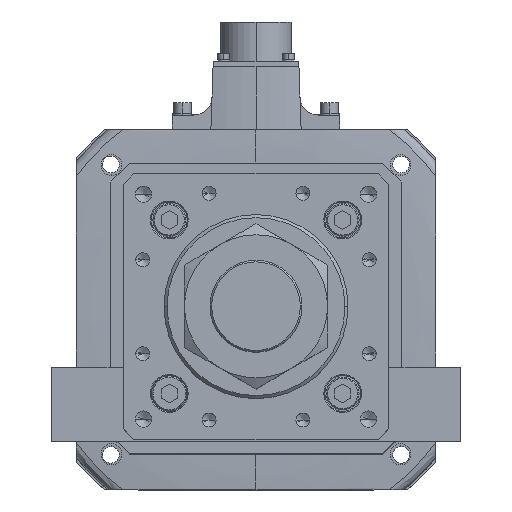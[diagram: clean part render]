
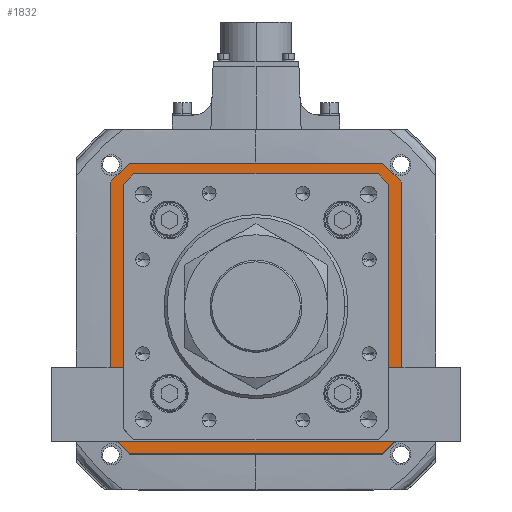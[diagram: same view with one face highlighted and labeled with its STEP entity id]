
A CAD part, top view. The second image highlights one B-rep face of the part: STEP entity #1832.
In plain terms, the highlighted planar face has unit normal (0, 0, 1).
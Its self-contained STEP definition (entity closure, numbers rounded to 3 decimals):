
#1428 = VECTOR ( 'NONE', #52994, 1000. ) ;
#1547 = ORIENTED_EDGE ( 'NONE', *, *, #45458, .T. ) ;
#1567 = CARTESIAN_POINT ( 'NONE',  ( 60.896, 60.896, -142. ) ) ;
#1832 = ADVANCED_FACE ( 'NONE', ( #26277, #37736 ), #39094, .T. ) ;
#2486 = CARTESIAN_POINT ( 'NONE',  ( 63., 58.793, -142. ) ) ;
#2830 = EDGE_CURVE ( 'NONE', #27604, #24506, #36284, .T. ) ;
#3192 = ORIENTED_EDGE ( 'NONE', *, *, #35800, .T. ) ;
#3304 = CARTESIAN_POINT ( 'NONE',  ( -63., -58.793, -142. ) ) ;
#3408 = LINE ( 'NONE', #49368, #26883 ) ;
#3456 = LINE ( 'NONE', #26130, #47890 ) ;
#3642 = EDGE_CURVE ( 'NONE', #44051, #52365, #13388, .T. ) ;
#4470 = VERTEX_POINT ( 'NONE', #27930 ) ;
#4930 = CARTESIAN_POINT ( 'NONE',  ( 62., -71., -142. ) ) ;
#5346 = DIRECTION ( 'NONE',  ( -0.707, 0.707, 0. ) ) ;
#7992 = DIRECTION ( 'NONE',  ( -0.707, -0.707, 0. ) ) ;
#9673 = LINE ( 'NONE', #39919, #11674 ) ;
#10715 = DIRECTION ( 'NONE',  ( 0.707, 0.707, 0. ) ) ;
#11674 = VECTOR ( 'NONE', #5346, 1000. ) ;
#11905 = CARTESIAN_POINT ( 'NONE',  ( 63., -58.793, -142. ) ) ;
#11924 = EDGE_LOOP ( 'NONE', ( #46653, #27218, #46488, #17710, #25760, #25331, #55616, #37233 ) ) ;
#13077 = DIRECTION ( 'NONE',  ( -1., 0., 0. ) ) ;
#13388 = LINE ( 'NONE', #32476, #43012 ) ;
#13464 = DIRECTION ( 'NONE',  ( 0., 1., 0. ) ) ;
#13615 = ORIENTED_EDGE ( 'NONE', *, *, #23549, .T. ) ;
#14623 = CARTESIAN_POINT ( 'NONE',  ( 71., 62., -142. ) ) ;
#15010 = ORIENTED_EDGE ( 'NONE', *, *, #53263, .T. ) ;
#15631 = DIRECTION ( 'NONE',  ( 0., 1., 0. ) ) ;
#15773 = VERTEX_POINT ( 'NONE', #46161 ) ;
#15973 = VERTEX_POINT ( 'NONE', #26505 ) ;
#16837 = VECTOR ( 'NONE', #21428, 1000. ) ;
#16901 = LINE ( 'NONE', #20739, #47853 ) ;
#17214 = VERTEX_POINT ( 'NONE', #21645 ) ;
#17633 = CARTESIAN_POINT ( 'NONE',  ( 71., 62., -142. ) ) ;
#17710 = ORIENTED_EDGE ( 'NONE', *, *, #34416, .F. ) ;
#18928 = DIRECTION ( 'NONE',  ( 0., -1., 0. ) ) ;
#19586 = LINE ( 'NONE', #1567, #1428 ) ;
#20739 = CARTESIAN_POINT ( 'NONE',  ( 60.896, -60.896, -142. ) ) ;
#21428 = DIRECTION ( 'NONE',  ( 0.707, 0.707, 0. ) ) ;
#21632 = DIRECTION ( 'NONE',  ( 0., 0., 1. ) ) ;
#21645 = CARTESIAN_POINT ( 'NONE',  ( -58.793, -63., -142. ) ) ;
#21998 = CARTESIAN_POINT ( 'NONE',  ( 0., 0., -142. ) ) ;
#22143 = CARTESIAN_POINT ( 'NONE',  ( 58.793, 63., -142. ) ) ;
#22662 = EDGE_CURVE ( 'NONE', #15773, #36545, #41253, .T. ) ;
#23064 = ORIENTED_EDGE ( 'NONE', *, *, #55107, .T. ) ;
#23299 = DIRECTION ( 'NONE',  ( -0.707, 0.707, 0. ) ) ;
#23343 = CARTESIAN_POINT ( 'NONE',  ( -71., -62., -142. ) ) ;
#23549 = EDGE_CURVE ( 'NONE', #55043, #34786, #36430, .T. ) ;
#23625 = LINE ( 'NONE', #30001, #41822 ) ;
#24168 = VECTOR ( 'NONE', #13464, 1000. ) ;
#24173 = VECTOR ( 'NONE', #13077, 1000. ) ;
#24506 = VERTEX_POINT ( 'NONE', #43933 ) ;
#25331 = ORIENTED_EDGE ( 'NONE', *, *, #45821, .F. ) ;
#25549 = CARTESIAN_POINT ( 'NONE',  ( -62., 71., -142. ) ) ;
#25760 = ORIENTED_EDGE ( 'NONE', *, *, #2830, .F. ) ;
#26130 = CARTESIAN_POINT ( 'NONE',  ( -60.896, -60.896, -142. ) ) ;
#26277 = FACE_BOUND ( 'NONE', #46817, .T. ) ;
#26505 = CARTESIAN_POINT ( 'NONE',  ( -71., 62., -142. ) ) ;
#26883 = VECTOR ( 'NONE', #49186, 1000. ) ;
#27062 = VECTOR ( 'NONE', #36716, 1000. ) ;
#27218 = ORIENTED_EDGE ( 'NONE', *, *, #49161, .F. ) ;
#27604 = VERTEX_POINT ( 'NONE', #4930 ) ;
#27703 = VECTOR ( 'NONE', #10715, 1000. ) ;
#27813 = CARTESIAN_POINT ( 'NONE',  ( -71., 62., -142. ) ) ;
#27832 = VERTEX_POINT ( 'NONE', #23343 ) ;
#27930 = CARTESIAN_POINT ( 'NONE',  ( 71., -62., -142. ) ) ;
#28714 = EDGE_CURVE ( 'NONE', #36545, #55043, #19586, .T. ) ;
#28759 = LINE ( 'NONE', #27813, #34810 ) ;
#29491 = CARTESIAN_POINT ( 'NONE',  ( 0., -63., -142. ) ) ;
#29699 = AXIS2_PLACEMENT_3D ( 'NONE', #21998, #21632, #51419 ) ;
#30001 = CARTESIAN_POINT ( 'NONE',  ( 71., -62., -142. ) ) ;
#30373 = DIRECTION ( 'NONE',  ( -0.707, -0.707, 0. ) ) ;
#32083 = CARTESIAN_POINT ( 'NONE',  ( -60.896, 60.896, -142. ) ) ;
#32355 = CARTESIAN_POINT ( 'NONE',  ( 63., 0., -142. ) ) ;
#32476 = CARTESIAN_POINT ( 'NONE',  ( 62., 71., -142. ) ) ;
#32661 = DIRECTION ( 'NONE',  ( 1., 0., 0. ) ) ;
#32890 = LINE ( 'NONE', #14623, #41669 ) ;
#34067 = VECTOR ( 'NONE', #51048, 1000. ) ;
#34263 = CARTESIAN_POINT ( 'NONE',  ( 62., 71., -142. ) ) ;
#34416 = EDGE_CURVE ( 'NONE', #24506, #27832, #9673, .T. ) ;
#34786 = VERTEX_POINT ( 'NONE', #11905 ) ;
#34810 = VECTOR ( 'NONE', #15631, 1000. ) ;
#35038 = CARTESIAN_POINT ( 'NONE',  ( -63., 0., -142. ) ) ;
#35054 = EDGE_CURVE ( 'NONE', #35434, #15773, #49979, .T. ) ;
#35434 = VERTEX_POINT ( 'NONE', #44310 ) ;
#35800 = EDGE_CURVE ( 'NONE', #34786, #35889, #16901, .T. ) ;
#35889 = VERTEX_POINT ( 'NONE', #38951 ) ;
#36154 = CARTESIAN_POINT ( 'NONE',  ( 0., 63., -142. ) ) ;
#36284 = LINE ( 'NONE', #38816, #24173 ) ;
#36430 = LINE ( 'NONE', #32355, #48584 ) ;
#36490 = VERTEX_POINT ( 'NONE', #17633 ) ;
#36545 = VERTEX_POINT ( 'NONE', #22143 ) ;
#36716 = DIRECTION ( 'NONE',  ( 1., 0., 0. ) ) ;
#36780 = LINE ( 'NONE', #29491, #34067 ) ;
#37189 = ORIENTED_EDGE ( 'NONE', *, *, #35054, .T. ) ;
#37233 = ORIENTED_EDGE ( 'NONE', *, *, #46713, .F. ) ;
#37245 = DIRECTION ( 'NONE',  ( 0., -1., 0. ) ) ;
#37736 = FACE_OUTER_BOUND ( 'NONE', #11924, .T. ) ;
#38816 = CARTESIAN_POINT ( 'NONE',  ( 62., -71., -142. ) ) ;
#38936 = LINE ( 'NONE', #35038, #24168 ) ;
#38951 = CARTESIAN_POINT ( 'NONE',  ( 58.793, -63., -142. ) ) ;
#39094 = PLANE ( 'NONE',  #29699 ) ;
#39702 = LINE ( 'NONE', #25549, #16837 ) ;
#39919 = CARTESIAN_POINT ( 'NONE',  ( -62., -71., -142. ) ) ;
#41253 = LINE ( 'NONE', #36154, #27062 ) ;
#41669 = VECTOR ( 'NONE', #18928, 1000. ) ;
#41822 = VECTOR ( 'NONE', #30373, 1000. ) ;
#43012 = VECTOR ( 'NONE', #32661, 1000. ) ;
#43933 = CARTESIAN_POINT ( 'NONE',  ( -62., -71., -142. ) ) ;
#44051 = VERTEX_POINT ( 'NONE', #54724 ) ;
#44310 = CARTESIAN_POINT ( 'NONE',  ( -63., 58.793, -142. ) ) ;
#44775 = ORIENTED_EDGE ( 'NONE', *, *, #28714, .T. ) ;
#45458 = EDGE_CURVE ( 'NONE', #17214, #46337, #3456, .T. ) ;
#45501 = ORIENTED_EDGE ( 'NONE', *, *, #22662, .T. ) ;
#45821 = EDGE_CURVE ( 'NONE', #4470, #27604, #23625, .T. ) ;
#46161 = CARTESIAN_POINT ( 'NONE',  ( -58.793, 63., -142. ) ) ;
#46337 = VERTEX_POINT ( 'NONE', #3304 ) ;
#46488 = ORIENTED_EDGE ( 'NONE', *, *, #54040, .F. ) ;
#46653 = ORIENTED_EDGE ( 'NONE', *, *, #3642, .F. ) ;
#46713 = EDGE_CURVE ( 'NONE', #52365, #36490, #3408, .T. ) ;
#46817 = EDGE_LOOP ( 'NONE', ( #13615, #3192, #23064, #1547, #15010, #37189, #45501, #44775 ) ) ;
#47853 = VECTOR ( 'NONE', #7992, 1000. ) ;
#47890 = VECTOR ( 'NONE', #23299, 1000. ) ;
#47992 = EDGE_CURVE ( 'NONE', #36490, #4470, #32890, .T. ) ;
#48584 = VECTOR ( 'NONE', #37245, 1000. ) ;
#49161 = EDGE_CURVE ( 'NONE', #15973, #44051, #39702, .T. ) ;
#49186 = DIRECTION ( 'NONE',  ( 0.707, -0.707, 0. ) ) ;
#49368 = CARTESIAN_POINT ( 'NONE',  ( 71., 62., -142. ) ) ;
#49979 = LINE ( 'NONE', #32083, #27703 ) ;
#51048 = DIRECTION ( 'NONE',  ( -1., 0., 0. ) ) ;
#51419 = DIRECTION ( 'NONE',  ( 1., 0., 0. ) ) ;
#52365 = VERTEX_POINT ( 'NONE', #34263 ) ;
#52994 = DIRECTION ( 'NONE',  ( 0.707, -0.707, 0. ) ) ;
#53263 = EDGE_CURVE ( 'NONE', #46337, #35434, #38936, .T. ) ;
#54040 = EDGE_CURVE ( 'NONE', #27832, #15973, #28759, .T. ) ;
#54724 = CARTESIAN_POINT ( 'NONE',  ( -62., 71., -142. ) ) ;
#55043 = VERTEX_POINT ( 'NONE', #2486 ) ;
#55107 = EDGE_CURVE ( 'NONE', #35889, #17214, #36780, .T. ) ;
#55616 = ORIENTED_EDGE ( 'NONE', *, *, #47992, .F. ) ;
